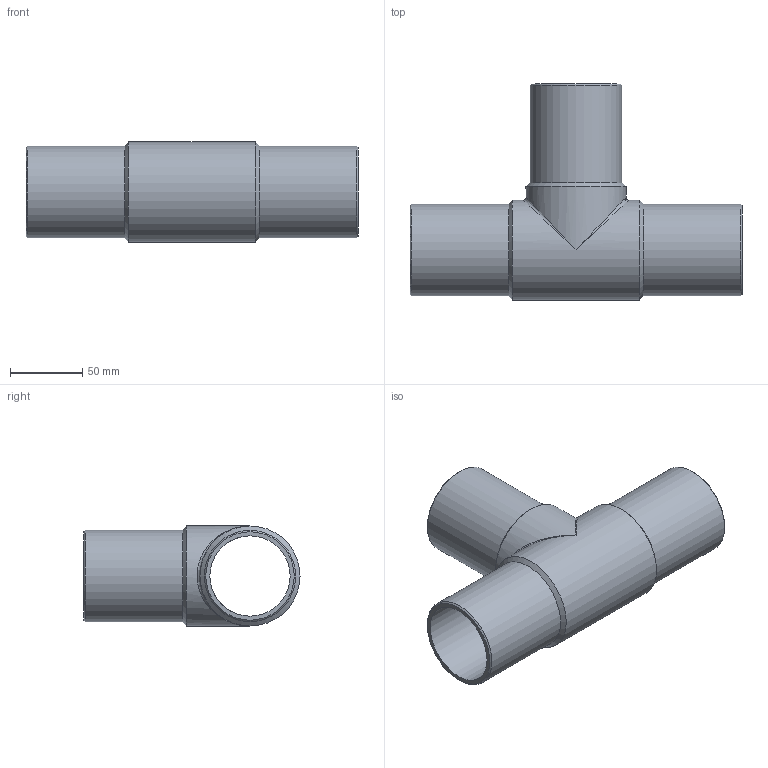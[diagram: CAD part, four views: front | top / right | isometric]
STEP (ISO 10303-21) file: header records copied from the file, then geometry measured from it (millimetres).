
FILE_DESCRIPTION(/* description */ ('Unknown'),/* implementation_level */ '2;1');
FILE_NAME(/* name */ 'TP063B',/* time_stamp */ '2021-08-13T12:33:25+02:00',/* author */ ('Unknown'),/* organization */ ('Unknown'),/* preprocessor_version */ 'ST-DEVELOPER v16.7',/* originating_system */ 'Solid Edge',/* authorisation */ 'Unknown');
FILE_SCHEMA (('AUTOMOTIVE_DESIGN {1 0 10303 214 3 1 1}'));
Length unit declared in the file: millimetre
Products named in the file (1): TP063B
Bounding box: 229 x 149 x 69 mm (x, y, z)
Volume: 274125.8 mm3; surface area: 117238.8 mm2
Topology: 1 solids, 1 shells, 18 faces, 44 edges, 23 vertices
Faces by surface type: cylinder 7, cone 6, plane 3, bspline 2
Full cylindrical faces by diameter (mm): 55.4 x2, 63 x3, 69 x2
Entity records: 504 total; most frequent: CARTESIAN_POINT 147, DIRECTION 76, ORIENTED_EDGE 42, AXIS2_PLACEMENT_3D 38, EDGE_LOOP 36, FACE_BOUND 36, EDGE_CURVE 21, VERTEX_POINT 19
